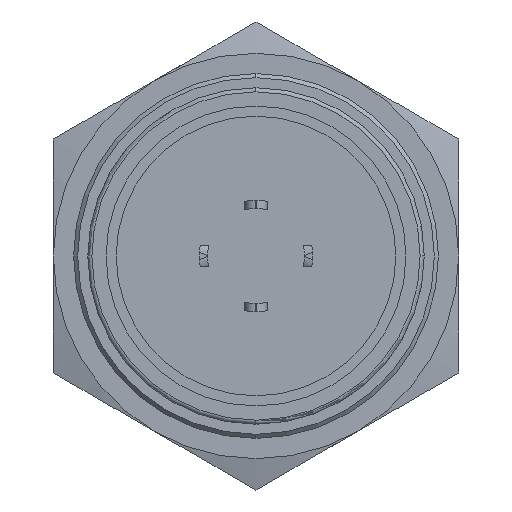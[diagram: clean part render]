
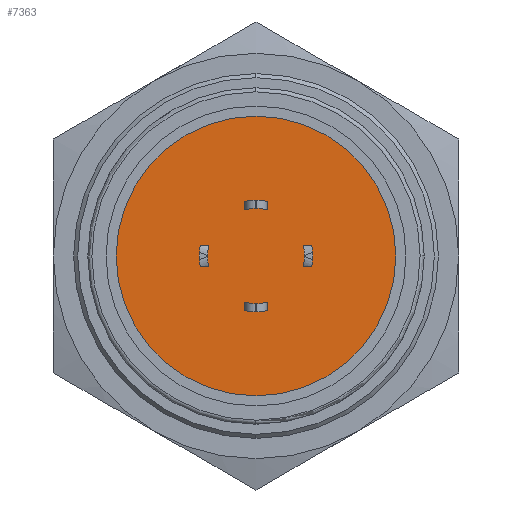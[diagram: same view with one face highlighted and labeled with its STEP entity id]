
A CAD part, front view. The second image highlights one B-rep face of the part: STEP entity #7363.
In plain terms, the highlighted planar face has unit normal (0, -1, 0).
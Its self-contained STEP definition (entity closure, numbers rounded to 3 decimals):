
#2569=CARTESIAN_POINT('',(0.,-1.6,0.));
#2570=DIRECTION('',(0.,1.,0.));
#2571=DIRECTION('',(1.,0.,0.));
#2572=AXIS2_PLACEMENT_3D('',#2569,#2570,#2571);
#2574=CARTESIAN_POINT('',(0.,-1.6,0.));
#2575=DIRECTION('',(0.,1.,0.));
#2576=DIRECTION('',(-1.,0.,0.));
#2577=AXIS2_PLACEMENT_3D('',#2574,#2575,#2576);
#3468=CARTESIAN_POINT('',(6.9,-1.6,0.));
#3469=VERTEX_POINT('',#3468);
#3470=CARTESIAN_POINT('',(-6.9,-1.6,0.));
#3471=VERTEX_POINT('',#3470);
#7354=CARTESIAN_POINT('',(0.,-1.6,0.));
#7355=DIRECTION('',(0.,-1.,0.));
#7356=DIRECTION('',(-1.,0.,0.));
#7357=AXIS2_PLACEMENT_3D('',#7354,#7355,#7356);
#7358=PLANE('',#7357);
#7359=ORIENTED_EDGE('',*,*,#7349,.T.);
#7360=ORIENTED_EDGE('',*,*,#7331,.T.);
#7361=EDGE_LOOP('',(#7359,#7360));
#7362=FACE_OUTER_BOUND('',#7361,.F.);
#7363=ADVANCED_FACE('',(#7362),#7358,.T.);
#2573=CIRCLE('',#2572,6.9);
#2578=CIRCLE('',#2577,6.9);
#7331=EDGE_CURVE('',#3471,#3469,#2578,.T.);
#7349=EDGE_CURVE('',#3469,#3471,#2573,.T.);
